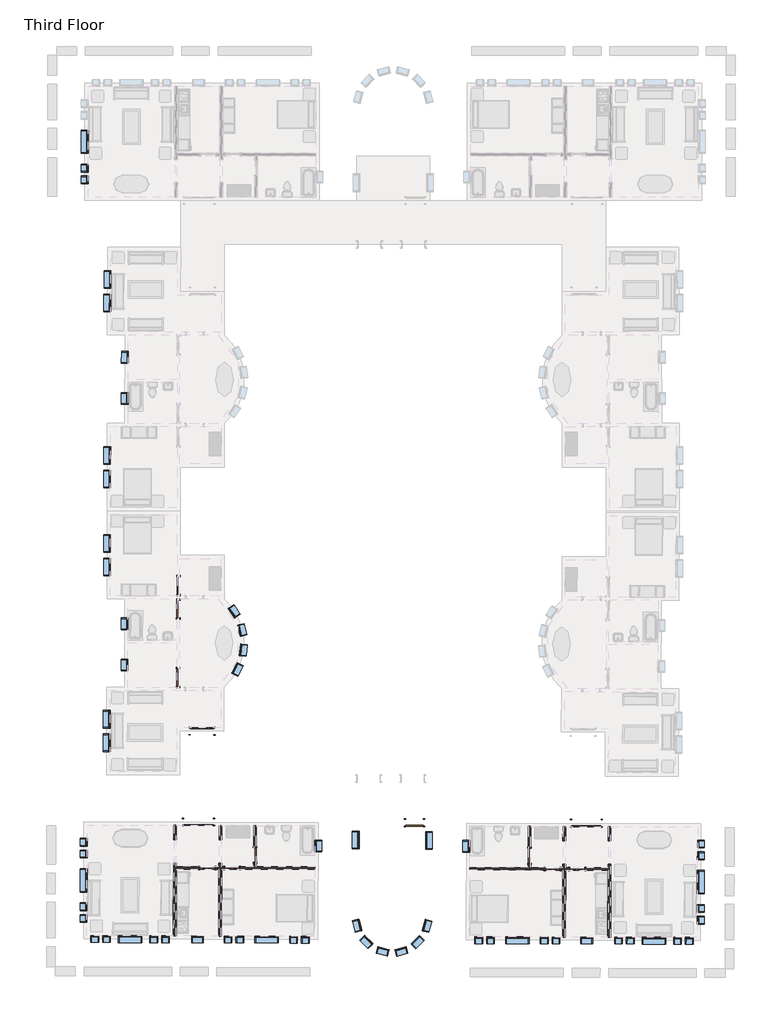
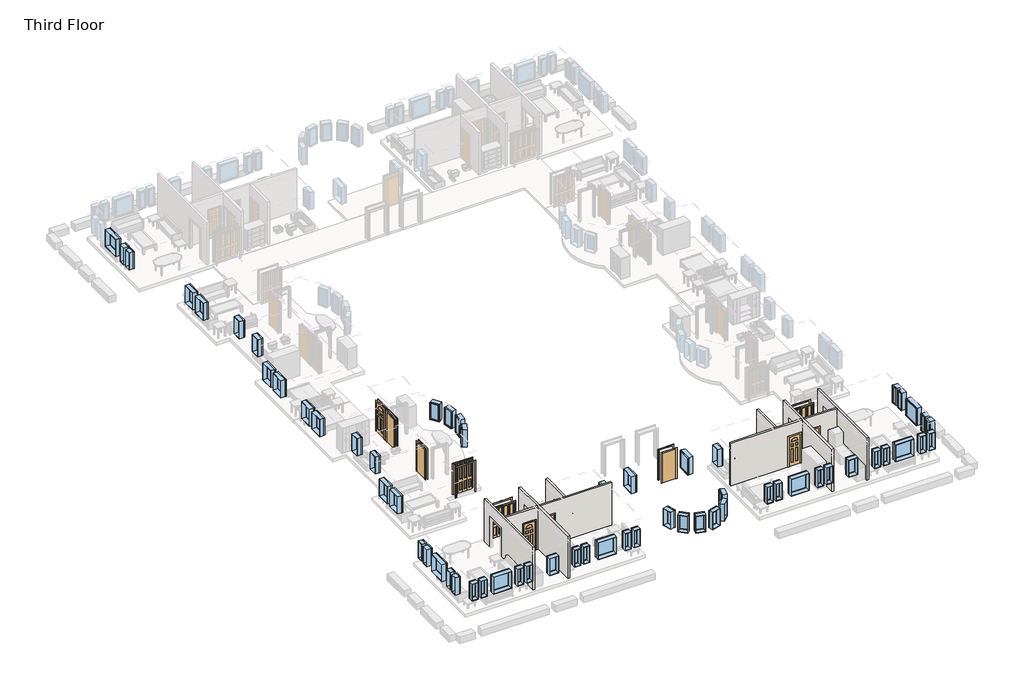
# One storey, part 1 of 5: 61 windows, 13 doors, 8 walls.
"""IFC4 building model written with IfcOpenShell, lengths in millimetres."""

from ifc_helpers import new_model, si_unit, frame, origin, place, context, project, spatial, polyline, outline, extrude, faceted_brep, transform, mapped, element, save
from components import m_bifold_4_panel_1220_x_2134mm_cde6dea2, m_bifold_4_panel_1525_x_2134mm_1ddae71f, m_bifold_4_panel_1525_x_2134mm_ac598c8b, m_single_decorative_2_0762_x_2134mm_0d0af7cb, m_single_decorative_2_0762_x_2134mm_2fe67c8e, m_single_decorative_2_0915_x_2134mm_0b11df3f, m_single_flush_0762_x_2134mm_0d89e411, m_single_flush_0762_x_2134mm_a28375c7, m_single_flush_0915_x_2134mm_ab9b6334, m_single_flush_0915_x_2134mm_08e0827a, m_single_flush_0915_x_2134mm_70678a7c, m_fixed_0406_x_1220mm_57fee329, m_fixed_0406_x_1220mm_85c28f40, m_fixed_0610_x_1220mm_2c28ef1d, m_fixed_0610_x_1220mm_1ea27827, m_fixed_0915_x_1220mm_bde29121, m_fixed_0915_x_1220mm_2a2509e7, m_fixed_1220_x_1220mm_e08ff7af, m_fixed_1220_x_1220mm_8f5f8ad3

model = new_model("IFC4")

# Units and contexts
model_context = context("Model", 3, world=origin())
ifc_project = project(units=[si_unit("LENGTHUNIT", "METRE", prefix="MILLI")], contexts=[model_context])

# Site, building, storey
site = spatial("IfcSite", under=ifc_project)
building = spatial("IfcBuilding", under=site)
storey = spatial("IfcBuildingStorey", under=building, Name="Third Floor", Elevation=6096.0)

# Doors
placement = place(None, origin())
m_bifold_4_panel_1220_x_2134mm_shape = m_bifold_4_panel_1220_x_2134mm_cde6dea2(model_context)
element("IfcDoor", 1, ObjectType="M_Bifold-4 Panel : 1220 x 2134mm", at=placement, inside=storey, context=model_context, shape_type="MappedRepresentation", body=[
    mapped(m_bifold_4_panel_1220_x_2134mm_shape, transform((-28896.4341492, -31100.6581424, 6096.0), x_axis=(-0.9999989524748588, 0.0014474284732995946, 0.0), y_axis=(-0.0014474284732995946, -0.9999989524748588, 0.0), z_axis=(0.0, 0.0, 1.0))),
])
m_bifold_4_panel_1525_x_2134mm_shape = m_bifold_4_panel_1525_x_2134mm_1ddae71f(model_context)
element("IfcDoor", 2, ObjectType="M_Bifold-4 Panel : 1525 x 2134mm", at=placement, inside=storey, context=model_context, shape_type="MappedRepresentation", body=[
    mapped(m_bifold_4_panel_1525_x_2134mm_shape, transform((-29084.8596063, -35825.933405, 6096.0), x_axis=(-0.9999958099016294, 0.0028948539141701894, 0.0), y_axis=(-0.0028948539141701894, -0.9999958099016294, 0.0), z_axis=(0.0, 0.0, 1.0))),
])
m_bifold_4_panel_1525_x_2134mm_2_shape = m_bifold_4_panel_1525_x_2134mm_ac598c8b(model_context)
element("IfcDoor", 3, ObjectType="M_Bifold-4 Panel : 1525 x 2134mm", at=placement, inside=storey, context=model_context, shape_type="MappedRepresentation", body=[
    mapped(m_bifold_4_panel_1525_x_2134mm_2_shape, transform((-8922.9440871, -35884.2994497, 6096.0), x_axis=(0.9999958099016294, -0.0028948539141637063, 0.0), y_axis=(0.0028948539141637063, 0.9999958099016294, 0.0), z_axis=(0.0, 0.0, 1.0))),
])
m_single_decorative_2_0762_x_2134mm_shape = m_single_decorative_2_0762_x_2134mm_0d0af7cb(model_context)
element("IfcDoor", 4, ObjectType="M_Single-Decorative 2 : 0762 x 2134mm", at=placement, inside=storey, context=model_context, shape_type="MappedRepresentation", body=[
    mapped(m_single_decorative_2_0762_x_2134mm_shape, transform((-10682.8170859, -38255.9648119, 6096.0), x_axis=(0.9999958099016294, -0.002894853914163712, 0.0), y_axis=(0.002894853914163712, 0.9999958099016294, 0.0), z_axis=(0.0, 0.0, 1.0))),
])
element("IfcDoor", 5, ObjectType="M_Single-Decorative 2 : 0762 x 2134mm", at=placement, inside=storey, context=model_context, shape_type="MappedRepresentation", body=[
    mapped(m_single_decorative_2_0762_x_2134mm_shape, transform((-28625.491904, -38204.0231719, 6096.0), x_axis=(0.9999958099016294, -0.0028948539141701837, 0.0), y_axis=(0.0028948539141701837, 0.9999958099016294, 0.0), z_axis=(0.0, 0.0, 1.0))),
])
m_single_decorative_2_0762_x_2134mm_2_shape = m_single_decorative_2_0762_x_2134mm_2fe67c8e(model_context)
element("IfcDoor", 6, ObjectType="M_Single-Decorative 2 : 0762 x 2134mm", at=placement, inside=storey, context=model_context, shape_type="MappedRepresentation", body=[
    mapped(m_single_decorative_2_0762_x_2134mm_2_shape, transform((-9396.0724775, -38259.6897652, 6096.0), x_axis=(-0.9999958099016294, 0.002894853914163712, 0.0), y_axis=(-0.002894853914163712, -0.9999958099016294, 0.0), z_axis=(0.0, 0.0, 1.0))),
])
element("IfcDoor", 7, ObjectType="M_Single-Decorative 2 : 0762 x 2134mm", at=placement, inside=storey, context=model_context, shape_type="MappedRepresentation", body=[
    mapped(m_single_decorative_2_0762_x_2134mm_2_shape, transform((-27338.7472956, -38207.7481251, 6096.0), x_axis=(-0.9999958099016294, 0.0028948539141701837, 0.0), y_axis=(-0.0028948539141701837, -0.9999958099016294, 0.0), z_axis=(0.0, 0.0, 1.0))),
])
m_single_decorative_2_0915_x_2134mm_shape = m_single_decorative_2_0915_x_2134mm_0b11df3f(model_context)
element("IfcDoor", 8, ObjectType="M_Single-Decorative 2 : 0915 x 2134mm", at=placement, inside=storey, context=model_context, shape_type="MappedRepresentation", body=[
    mapped(m_single_decorative_2_0915_x_2134mm_shape, transform((-30128.4841363, -23534.6169126, 6096.0), x_axis=(-0.0014474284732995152, -0.9999989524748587, 0.0), y_axis=(0.9999989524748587, -0.0014474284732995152, 0.0), z_axis=(0.0, 0.0, 1.0))),
])
m_single_flush_0762_x_2134mm_shape = m_single_flush_0762_x_2134mm_0d89e411(model_context)
element("IfcDoor", 9, ObjectType="M_Single-Flush : 0762 x 2134mm", at=placement, inside=storey, context=model_context, shape_type="MappedRepresentation", body=[
    mapped(m_single_flush_0762_x_2134mm_shape, transform((-26146.2902967, -37533.4472886, 6096.0), x_axis=(-0.0028948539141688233, -0.9999958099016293, 0.0), y_axis=(0.9999958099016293, -0.0028948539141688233, 0.0), z_axis=(0.0, 0.0, 1.0))),
])
m_single_flush_0762_x_2134mm_2_shape = m_single_flush_0762_x_2134mm_a28375c7(model_context)
element("IfcDoor", 10, ObjectType="M_Single-Flush : 0762 x 2134mm", at=placement, inside=storey, context=model_context, shape_type="MappedRepresentation", body=[
    mapped(m_single_flush_0762_x_2134mm_2_shape, transform((-11871.3501103, -37574.7713282, 6096.0), x_axis=(-0.002894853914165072, -0.9999958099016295, 0.0), y_axis=(0.9999958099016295, -0.002894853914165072, 0.0), z_axis=(0.0, 0.0, 1.0))),
])
m_single_flush_0915_x_2134mm_shape = m_single_flush_0915_x_2134mm_ab9b6334(model_context)
element("IfcDoor", 11, ObjectType="M_Single-Flush : 0915 x 2134mm", at=placement, inside=storey, context=model_context, shape_type="MappedRepresentation", body=[
    mapped(m_single_flush_0915_x_2134mm_shape, transform((-30135.3858371, -28302.8619177, 6096.0), x_axis=(-0.0014474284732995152, -0.9999989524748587, 0.0), y_axis=(0.9999989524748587, -0.0014474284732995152, 0.0), z_axis=(0.0, 0.0, 1.0))),
])
m_single_flush_0915_x_2134mm_2_shape = m_single_flush_0915_x_2134mm_08e0827a(model_context)
element("IfcDoor", 12, ObjectType="M_Single-Flush : 0915 x 2134mm", at=placement, inside=storey, context=model_context, shape_type="MappedRepresentation", body=[
    mapped(m_single_flush_0915_x_2134mm_2_shape, transform((-30130.249999, -24754.6156346, 6096.0), x_axis=(0.0014474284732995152, 0.9999989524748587, 0.0), y_axis=(-0.9999989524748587, 0.0014474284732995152, 0.0), z_axis=(0.0, 0.0, 1.0))),
])
m_single_flush_0915_x_2134mm_3_shape = m_single_flush_0915_x_2134mm_70678a7c(model_context)
element("IfcDoor", 13, ObjectType="M_Single-Flush : 0915 x 2134mm", at=placement, inside=storey, context=model_context, shape_type="MappedRepresentation", body=[
    mapped(m_single_flush_0915_x_2134mm_3_shape, transform((-17860.906636, -35858.4252454, 6096.0), x_axis=(0.9999958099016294, -0.0028948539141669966, 0.0), y_axis=(0.0028948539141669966, 0.9999958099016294, 0.0), z_axis=(0.0, 0.0, 1.0))),
])

# Walls
element("IfcWall", 14, ObjectType="Interior - 135mm Partition (2-hr)", at=placement, inside=storey, context=model_context, shape_type="Brep", body=[
    faceted_brep([(-7661.5898742, -41808.9757108, 6096.0), (-7650.6270624, -38021.9915787, 6096.0), (-7650.6270624, -38021.9915787, 8230.0), (-7647.0953406, -36801.9966906, 8230.0), (-7647.0953406, -36801.9966906, 6096.0), (-7644.9560436, -36062.9997871, 6096.0), (-7644.9560436, -36062.9997871, 9144.0), (-7661.5898742, -41808.9757108, 9144.0), (-7786.1264946, -38021.599326, 8230.0), (-7786.1264946, -38021.599326, 6096.0), (-7786.6330941, -38196.5985928, 6096.0), (-7787.0253468, -38332.098025, 6096.0), (-7797.0893064, -41808.5834581, 6096.0), (-7797.0893064, -41808.5834581, 9144.0), (-7787.0253468, -38332.098025, 9144.0), (-7786.6330941, -38196.5985928, 9144.0), (-7780.4554758, -36062.6075344, 9144.0), (-7780.4554758, -36062.6075344, 6096.0), (-7782.5947729, -36801.6044379, 6096.0), (-7782.5947729, -36801.6044379, 8230.0)], [[[0, 1, 2, 3, 4, 5, 6, 7]], [[8, 9, 10, 11, 12, 13, 14, 15, 16, 17, 18, 19]], [[18, 17, 5, 4]], [[12, 11, 10, 9, 1, 0]], [[7, 6, 16, 15, 14, 13]], [[4, 3, 19, 18]], [[2, 1, 9, 8]], [[3, 2, 8, 19]], [[6, 5, 17, 16]], [[0, 7, 13, 12]]]),
])
element("IfcWall", 15, ObjectType="Interior - 135mm Partition (2-hr)", at=placement, inside=storey, context=model_context, shape_type="Brep", body=[
    faceted_brep([(-10000.8354782, -36795.1829282, 8230.0), (-10000.8354782, -36795.1829282, 6096.0), (-9998.6961811, -36056.1860247, 6096.0), (-9998.6961811, -36056.1860247, 9144.0), (-10004.8737994, -38190.1770831, 9144.0), (-10005.2660521, -38325.6765153, 9144.0), (-10015.3300117, -41802.1619484, 9144.0), (-10015.3300117, -41802.1619484, 6096.0), (-10005.2660521, -38325.6765153, 6096.0), (-10004.8737994, -38190.1770831, 6096.0), (-10004.3671999, -38015.1778163, 6096.0), (-10004.3671999, -38015.1778163, 8230.0), (-10134.1956134, -36055.793772, 6096.0), (-10136.3349104, -36794.7906755, 6096.0), (-10136.3349104, -36794.7906755, 8230.0), (-10139.8666322, -38014.7855636, 8230.0), (-10139.8666322, -38014.7855636, 6096.0), (-10140.3732316, -38189.7848304, 6096.0), (-10140.7654843, -38325.2842626, 6096.0), (-10150.829444, -41801.7696957, 6096.0), (-10150.829444, -41801.7696957, 9144.0), (-10140.7654843, -38325.2842626, 9144.0), (-10140.3732316, -38189.7848304, 9144.0), (-10134.1956134, -36055.793772, 9144.0)], [[[0, 1, 2, 3, 4, 5, 6, 7, 8, 9, 10, 11]], [[12, 13, 14, 15, 16, 17, 18, 19, 20, 21, 22, 23]], [[2, 1, 13, 12]], [[10, 9, 8, 7, 19, 18, 17, 16]], [[6, 5, 4, 3, 23, 22, 21, 20]], [[16, 15, 11, 10]], [[14, 13, 1, 0]], [[15, 14, 0, 11]], [[3, 2, 12, 23]], [[7, 6, 20, 19]]]),
])
element("IfcWall", 16, ObjectType="Interior - 135mm Partition (2-hr)", at=placement, inside=storey, context=model_context, shape_type="Brep", body=[
    faceted_brep([(-9777.2670074, -38326.336542, 6096.0), (-9777.2670074, -38326.336542, 8230.0), (-9015.2702003, -38328.5424207, 8230.0), (-9015.2702003, -38328.5424207, 6096.0), (-7787.0253468, -38332.098025, 6096.0), (-7787.0253468, -38332.098025, 9144.0), (-10005.2660521, -38325.6765153, 9144.0), (-10005.2660521, -38325.6765153, 6096.0), (-9776.8747547, -38190.8371097, 8230.0), (-9776.8747547, -38190.8371097, 6096.0), (-10004.8737994, -38190.1770831, 6096.0), (-10004.8737994, -38190.1770831, 9144.0), (-7786.6330941, -38196.5985928, 9144.0), (-7786.6330941, -38196.5985928, 6096.0), (-9014.8779476, -38193.0429884, 6096.0), (-9014.8779476, -38193.0429884, 8230.0)], [[[0, 1, 2, 3, 4, 5, 6, 7]], [[8, 9, 10, 11, 12, 13, 14, 15]], [[9, 0, 7, 10]], [[3, 14, 13, 4]], [[5, 12, 11, 6]], [[1, 0, 9, 8]], [[2, 1, 8, 15]], [[3, 2, 15, 14]], [[5, 4, 13, 12]], [[7, 6, 11, 10]]]),
    faceted_brep([(-10302.0148087, -38324.8174674, 8230.0), (-10302.0148087, -38324.8174674, 6096.0), (-10140.7654843, -38325.2842626, 6096.0), (-10140.7654843, -38325.2842626, 9144.0), (-14989.2451686, -38311.2485634, 9144.0), (-14989.2451686, -38311.2485634, 6096.0), (-11064.0116158, -38322.6115887, 6096.0), (-11064.0116158, -38322.6115887, 8230.0), (-10301.622556, -38189.3180352, 6096.0), (-10301.622556, -38189.3180352, 8230.0), (-11063.6193631, -38187.1121565, 8230.0), (-11063.6193631, -38187.1121565, 6096.0), (-11805.3662551, -38184.9648986, 6096.0), (-11940.8656874, -38184.5726459, 6096.0), (-14988.8529159, -38175.7491311, 6096.0), (-14988.8529159, -38175.7491311, 9144.0), (-11940.8656874, -38184.5726459, 9144.0), (-11805.3662551, -38184.9648986, 9144.0), (-10140.3732316, -38189.7848304, 9144.0), (-10140.3732316, -38189.7848304, 6096.0)], [[[0, 1, 2, 3, 4, 5, 6, 7]], [[8, 9, 10, 11, 12, 13, 14, 15, 16, 17, 18, 19]], [[1, 8, 19, 2]], [[11, 6, 5, 14, 13, 12]], [[15, 4, 3, 18, 17, 16]], [[9, 8, 1, 0]], [[10, 9, 0, 7]], [[11, 10, 7, 6]], [[5, 4, 15, 14]], [[3, 2, 19, 18]]]),
])
element("IfcWall", 17, ObjectType="Interior - 135mm Partition (2-hr)", at=placement, inside=storey, context=model_context, shape_type="SweptSolid", body=[
    extrude(outline(polyline([(-2309.0, 0.0), (-2080.0, 0.0), (-2080.0, -2134.0), (-1318.0, -2134.0), (-1318.0, 0.0), (-175.0000001, 0.0), (-175.0000001, -3048.0), (-2309.0, -3048.0), (-2309.0, 0.0)])), frame((-11798.6820374, -35875.9745735, 6096.0), z_axis=(-0.9999958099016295, 0.002894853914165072, 0.0), x_axis=(0.002894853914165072, 0.9999958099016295, 0.0)), (0.0, 0.0, 1.0), 135.5),
])
element("IfcWall", 18, ObjectType="Interior - 135mm Partition (2-hr)", at=placement, inside=storey, context=model_context, shape_type="Brep", body=[
    faceted_brep([(-30244.9952471, -41743.5997775, 6096.0), (-30234.9312874, -38267.1143443, 6096.0), (-30234.5390347, -38131.6149121, 6096.0), (-30234.0324353, -37956.6156454, 6096.0), (-30234.0324353, -37956.6156454, 8230.0), (-30230.5007135, -36736.6207573, 8230.0), (-30230.5007135, -36736.6207573, 6096.0), (-30228.3614165, -35997.6238538, 6096.0), (-30228.3614165, -35997.6238538, 9144.0), (-30234.5390347, -38131.6149121, 9144.0), (-30234.9312874, -38267.1143443, 9144.0), (-30244.9952471, -41743.5997775, 9144.0), (-30369.5318675, -37956.2233926, 8230.0), (-30369.5318675, -37956.2233926, 6096.0), (-30380.4946793, -41743.2075247, 6096.0), (-30380.4946793, -41743.2075247, 9144.0), (-30363.8608487, -35997.2316011, 9144.0), (-30363.8608487, -35997.2316011, 6096.0), (-30366.0001458, -36736.2285046, 6096.0), (-30366.0001458, -36736.2285046, 8230.0)], [[[0, 1, 2, 3, 4, 5, 6, 7, 8, 9, 10, 11]], [[12, 13, 14, 15, 16, 17, 18, 19]], [[18, 17, 7, 6]], [[14, 13, 3, 2, 1, 0]], [[11, 10, 9, 8, 16, 15]], [[6, 5, 19, 18]], [[4, 3, 13, 12]], [[5, 4, 12, 19]], [[0, 11, 15, 14]], [[8, 7, 17, 16]]]),
])
element("IfcWall", 19, ObjectType="Interior - 135mm Partition (2-hr)", at=placement, inside=storey, context=model_context, shape_type="Brep", body=[
    faceted_brep([(-27876.760576, -36743.4345197, 8230.0), (-27876.760576, -36743.4345197, 6096.0), (-27874.6212789, -36004.4376162, 6096.0), (-27874.6212789, -36004.4376162, 9144.0), (-27880.7988972, -38138.4286745, 9144.0), (-27881.1911499, -38273.9281067, 9144.0), (-27891.2551095, -41750.4135399, 9144.0), (-27891.2551095, -41750.4135399, 6096.0), (-27881.1911499, -38273.9281067, 6096.0), (-27880.7988972, -38138.4286745, 6096.0), (-27880.2922977, -37963.4294078, 6096.0), (-27880.2922977, -37963.4294078, 8230.0), (-28010.1207112, -36004.0453635, 6096.0), (-28012.2600082, -36743.042267, 6096.0), (-28012.2600082, -36743.042267, 8230.0), (-28015.79173, -37963.037155, 8230.0), (-28015.79173, -37963.037155, 6096.0), (-28016.2983294, -38138.0364218, 6096.0), (-28016.6905821, -38273.535854, 6096.0), (-28026.7545418, -41750.0212871, 6096.0), (-28026.7545418, -41750.0212871, 9144.0), (-28016.6905821, -38273.535854, 9144.0), (-28016.2983294, -38138.0364218, 9144.0), (-28010.1207112, -36004.0453635, 9144.0)], [[[0, 1, 2, 3, 4, 5, 6, 7, 8, 9, 10, 11]], [[12, 13, 14, 15, 16, 17, 18, 19, 20, 21, 22, 23]], [[2, 1, 13, 12]], [[10, 9, 8, 7, 19, 18, 17, 16]], [[6, 5, 4, 3, 23, 22, 21, 20]], [[16, 15, 11, 10]], [[14, 13, 1, 0]], [[15, 14, 0, 11]], [[7, 6, 20, 19]], [[3, 2, 12, 23]]]),
])
element("IfcWall", 20, ObjectType="Interior - 135mm Partition (2-hr)", at=placement, inside=storey, context=model_context, shape_type="Brep", body=[
    faceted_brep([(-30234.5390347, -38131.6149121, 6096.0), (-30234.5390347, -38131.6149121, 9144.0), (-28016.2983294, -38138.0364218, 9144.0), (-28016.2983294, -38138.0364218, 6096.0), (-28244.2973741, -38137.3763951, 6096.0), (-28244.2973741, -38137.3763951, 8230.0), (-29006.2941812, -38135.1705164, 8230.0), (-29006.2941812, -38135.1705164, 6096.0), (-30234.9312874, -38267.1143443, 9144.0), (-30234.9312874, -38267.1143443, 6096.0), (-29006.6864339, -38270.6699486, 6096.0), (-29006.6864339, -38270.6699486, 8230.0), (-28244.6896268, -38272.8758273, 8230.0), (-28244.6896268, -38272.8758273, 6096.0), (-28016.6905821, -38273.535854, 6096.0), (-28016.6905821, -38273.535854, 9144.0)], [[[0, 1, 2, 3, 4, 5, 6, 7]], [[8, 9, 10, 11, 12, 13, 14, 15]], [[9, 0, 7, 10]], [[13, 4, 3, 14]], [[1, 8, 15, 2]], [[1, 0, 9, 8]], [[3, 2, 15, 14]], [[5, 4, 13, 12]], [[6, 5, 12, 11]], [[7, 6, 11, 10]]]),
    faceted_brep([(-27719.5495728, -38138.8954697, 8230.0), (-27719.5495728, -38138.8954697, 6096.0), (-27880.7988972, -38138.4286745, 6096.0), (-27880.7988972, -38138.4286745, 9144.0), (-26215.8058737, -38143.2486063, 9144.0), (-26080.3064415, -38143.640859, 9144.0), (-23032.3192129, -38152.4643737, 9144.0), (-23032.3192129, -38152.4643737, 6096.0), (-26080.3064415, -38143.640859, 6096.0), (-26215.8058737, -38143.2486063, 6096.0), (-26957.5527657, -38141.1013484, 6096.0), (-26957.5527657, -38141.1013484, 8230.0), (-27719.9418255, -38274.3949019, 6096.0), (-27719.9418255, -38274.3949019, 8230.0), (-26957.9450184, -38276.6007806, 8230.0), (-26957.9450184, -38276.6007806, 6096.0), (-23032.7114656, -38287.9638059, 6096.0), (-23032.7114656, -38287.9638059, 9144.0), (-27881.1911499, -38273.9281067, 9144.0), (-27881.1911499, -38273.9281067, 6096.0)], [[[0, 1, 2, 3, 4, 5, 6, 7, 8, 9, 10, 11]], [[12, 13, 14, 15, 16, 17, 18, 19]], [[1, 12, 19, 2]], [[15, 10, 9, 8, 7, 16]], [[17, 6, 5, 4, 3, 18]], [[3, 2, 19, 18]], [[13, 12, 1, 0]], [[14, 13, 0, 11]], [[15, 14, 11, 10]], [[7, 6, 17, 16]]]),
])
element("IfcWall", 21, ObjectType="Interior - 135mm Partition (2-hr)", at=placement, inside=storey, context=model_context, shape_type="SweptSolid", body=[
    extrude(outline(polyline([(-2309.0, 0.0), (-2080.0, 0.0), (-2080.0, -2134.0), (-1317.9999999, -2134.0), (-1317.9999999, 0.0), (-175.0, 0.0), (-175.0, -3048.0), (-2309.0, -3048.0), (-2309.0, 0.0)])), frame((-26073.6222238, -35834.6505339, 6096.0), z_axis=(-0.9999958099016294, 0.0028948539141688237, 0.0), x_axis=(0.0028948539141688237, 0.9999958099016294, 0.0)), (0.0, 0.0, 1.0), 135.5),
])

# Windows
m_fixed_0406_x_1220mm_shape = m_fixed_0406_x_1220mm_57fee329(model_context)
element("IfcWindow", 22, ObjectType="M_Fixed : 0406 x 1220mm", at=placement, inside=storey, context=model_context, shape_type="MappedRepresentation", body=[
    mapped(m_fixed_0406_x_1220mm_shape, transform((-35008.8416203, -2447.8811614, 6096.0), x_axis=(0.0, -1.0, 0.0), y_axis=(1.0, 0.0, 0.0), z_axis=(0.0, 0.0, 1.0))),
])
element("IfcWindow", 23, ObjectType="M_Fixed : 0406 x 1220mm", at=placement, inside=storey, context=model_context, shape_type="MappedRepresentation", body=[
    mapped(m_fixed_0406_x_1220mm_shape, transform((-35008.8416203, -1837.8811614, 6096.0), x_axis=(0.0, -1.0, 0.0), y_axis=(1.0, 0.0, 0.0), z_axis=(0.0, 0.0, 1.0))),
])
element("IfcWindow", 24, ObjectType="M_Fixed : 0406 x 1220mm", at=placement, inside=storey, context=model_context, shape_type="MappedRepresentation", body=[
    mapped(m_fixed_0406_x_1220mm_shape, transform((-10500.8722121, -41988.7571565, 6096.0), x_axis=(0.9999958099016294, -0.002894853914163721, 0.0), y_axis=(0.002894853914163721, 0.9999958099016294, 0.0), z_axis=(0.0, 0.0, 1.0))),
])
element("IfcWindow", 25, ObjectType="M_Fixed : 0406 x 1220mm", at=placement, inside=storey, context=model_context, shape_type="MappedRepresentation", body=[
    mapped(m_fixed_0406_x_1220mm_shape, transform((-11110.8696561, -41986.9912956, 6096.0), x_axis=(0.9999958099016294, -0.002894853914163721, 0.0), y_axis=(0.002894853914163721, 0.9999958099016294, 0.0), z_axis=(0.0, 0.0, 1.0))),
])
element("IfcWindow", 26, ObjectType="M_Fixed : 0406 x 1220mm", at=placement, inside=storey, context=model_context, shape_type="MappedRepresentation", body=[
    mapped(m_fixed_0406_x_1220mm_shape, transform((-3572.1512442, -42008.8148756, 6096.0), x_axis=(0.9999958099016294, -0.002894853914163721, 0.0), y_axis=(0.002894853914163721, 0.9999958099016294, 0.0), z_axis=(0.0, 0.0, 1.0))),
])
element("IfcWindow", 27, ObjectType="M_Fixed : 0406 x 1220mm", at=placement, inside=storey, context=model_context, shape_type="MappedRepresentation", body=[
    mapped(m_fixed_0406_x_1220mm_shape, transform((-4182.1486882, -42007.0490147, 6096.0), x_axis=(0.9999958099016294, -0.002894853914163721, 0.0), y_axis=(0.002894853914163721, 0.9999958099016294, 0.0), z_axis=(0.0, 0.0, 1.0))),
])
element("IfcWindow", 28, ObjectType="M_Fixed : 0406 x 1220mm", at=placement, inside=storey, context=model_context, shape_type="MappedRepresentation", body=[
    mapped(m_fixed_0406_x_1220mm_shape, transform((-2955.3079143, -36968.5794278, 6096.0), x_axis=(0.0028948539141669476, 0.9999958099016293, 0.0), y_axis=(-0.9999958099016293, 0.0028948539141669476, 0.0), z_axis=(0.0, 0.0, 1.0))),
])
element("IfcWindow", 29, ObjectType="M_Fixed : 0406 x 1220mm", at=placement, inside=storey, context=model_context, shape_type="MappedRepresentation", body=[
    mapped(m_fixed_0406_x_1220mm_shape, transform((-2957.0737751, -37578.5768719, 6096.0), x_axis=(0.0028948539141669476, 0.9999958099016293, 0.0), y_axis=(-0.9999958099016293, 0.0028948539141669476, 0.0), z_axis=(0.0, 0.0, 1.0))),
])
element("IfcWindow", 30, ObjectType="M_Fixed : 0406 x 1220mm", at=placement, inside=storey, context=model_context, shape_type="MappedRepresentation", body=[
    mapped(m_fixed_0406_x_1220mm_shape, transform((-23528.3176256, -41951.0444472, 6096.0), x_axis=(0.9999958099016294, -0.0028948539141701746, 0.0), y_axis=(0.0028948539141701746, 0.9999958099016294, 0.0), z_axis=(0.0, 0.0, 1.0))),
])
element("IfcWindow", 31, ObjectType="M_Fixed : 0406 x 1220mm", at=placement, inside=storey, context=model_context, shape_type="MappedRepresentation", body=[
    mapped(m_fixed_0406_x_1220mm_shape, transform((-24138.3150696, -41949.2785863, 6096.0), x_axis=(0.9999958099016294, -0.0028948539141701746, 0.0), y_axis=(0.0028948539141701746, 0.9999958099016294, 0.0), z_axis=(0.0, 0.0, 1.0))),
])
element("IfcWindow", 32, ObjectType="M_Fixed : 0406 x 1220mm", at=placement, inside=storey, context=model_context, shape_type="MappedRepresentation", body=[
    mapped(m_fixed_0406_x_1220mm_shape, transform((-30795.2871761, -41930.0075438, 6096.0), x_axis=(0.9999958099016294, -0.0028948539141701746, 0.0), y_axis=(0.0028948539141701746, 0.9999958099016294, 0.0), z_axis=(0.0, 0.0, 1.0))),
])
element("IfcWindow", 33, ObjectType="M_Fixed : 0406 x 1220mm", at=placement, inside=storey, context=model_context, shape_type="MappedRepresentation", body=[
    mapped(m_fixed_0406_x_1220mm_shape, transform((-31405.2846201, -41928.2416829, 6096.0), x_axis=(0.9999958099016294, -0.0028948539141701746, 0.0), y_axis=(0.0028948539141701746, 0.9999958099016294, 0.0), z_axis=(0.0, 0.0, 1.0))),
])
element("IfcWindow", 34, ObjectType="M_Fixed : 0406 x 1220mm", at=placement, inside=storey, context=model_context, shape_type="MappedRepresentation", body=[
    mapped(m_fixed_0406_x_1220mm_shape, transform((-35070.1428086, -40837.627884, 6096.0), x_axis=(-0.002894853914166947, -0.9999958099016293, 0.0), y_axis=(0.9999958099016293, -0.002894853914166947, 0.0), z_axis=(0.0, 0.0, 1.0))),
])
element("IfcWindow", 35, ObjectType="M_Fixed : 0406 x 1220mm", at=placement, inside=storey, context=model_context, shape_type="MappedRepresentation", body=[
    mapped(m_fixed_0406_x_1220mm_shape, transform((-35068.3769478, -40227.63044, 6096.0), x_axis=(-0.002894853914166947, -0.9999958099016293, 0.0), y_axis=(0.9999958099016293, -0.002894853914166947, 0.0), z_axis=(0.0, 0.0, 1.0))),
])
m_fixed_0406_x_1220mm_2_shape = m_fixed_0406_x_1220mm_85c28f40(model_context)
element("IfcWindow", 36, ObjectType="M_Fixed : 0406 x 1220mm", at=placement, inside=storey, context=model_context, shape_type="MappedRepresentation", body=[
    mapped(m_fixed_0406_x_1220mm_2_shape, transform((-14514.855393, -41977.1372129, 6096.0), x_axis=(-0.9999958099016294, 0.002894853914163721, 0.0), y_axis=(-0.002894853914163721, -0.9999958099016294, 0.0), z_axis=(0.0, 0.0, 1.0))),
])
element("IfcWindow", 37, ObjectType="M_Fixed : 0406 x 1220mm", at=placement, inside=storey, context=model_context, shape_type="MappedRepresentation", body=[
    mapped(m_fixed_0406_x_1220mm_2_shape, transform((-13904.857949, -41978.9030738, 6096.0), x_axis=(-0.9999958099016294, 0.002894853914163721, 0.0), y_axis=(-0.002894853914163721, -0.9999958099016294, 0.0), z_axis=(0.0, 0.0, 1.0))),
])
element("IfcWindow", 38, ObjectType="M_Fixed : 0406 x 1220mm", at=placement, inside=storey, context=model_context, shape_type="MappedRepresentation", body=[
    mapped(m_fixed_0406_x_1220mm_2_shape, transform((-7247.8858424, -41998.1741163, 6096.0), x_axis=(-0.9999958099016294, 0.002894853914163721, 0.0), y_axis=(-0.002894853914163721, -0.9999958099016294, 0.0), z_axis=(0.0, 0.0, 1.0))),
])
element("IfcWindow", 39, ObjectType="M_Fixed : 0406 x 1220mm", at=placement, inside=storey, context=model_context, shape_type="MappedRepresentation", body=[
    mapped(m_fixed_0406_x_1220mm_2_shape, transform((-6637.8883984, -41999.9399772, 6096.0), x_axis=(-0.9999958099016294, 0.002894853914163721, 0.0), y_axis=(-0.002894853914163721, -0.9999958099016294, 0.0), z_axis=(0.0, 0.0, 1.0))),
])
element("IfcWindow", 40, ObjectType="M_Fixed : 0406 x 1220mm", at=placement, inside=storey, context=model_context, shape_type="MappedRepresentation", body=[
    mapped(m_fixed_0406_x_1220mm_2_shape, transform((-2966.7773255, -40930.5628267, 6096.0), x_axis=(-0.0028948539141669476, -0.9999958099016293, 0.0), y_axis=(0.9999958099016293, -0.0028948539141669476, 0.0), z_axis=(0.0, 0.0, 1.0))),
])
element("IfcWindow", 41, ObjectType="M_Fixed : 0406 x 1220mm", at=placement, inside=storey, context=model_context, shape_type="MappedRepresentation", body=[
    mapped(m_fixed_0406_x_1220mm_2_shape, transform((-2965.0114646, -40320.5653826, 6096.0), x_axis=(-0.0028948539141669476, -0.9999958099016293, 0.0), y_axis=(0.9999958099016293, -0.0028948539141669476, 0.0), z_axis=(0.0, 0.0, 1.0))),
])
element("IfcWindow", 42, ObjectType="M_Fixed : 0406 x 1220mm", at=placement, inside=storey, context=model_context, shape_type="MappedRepresentation", body=[
    mapped(m_fixed_0406_x_1220mm_2_shape, transform((-27542.3008065, -41939.4245036, 6096.0), x_axis=(-0.9999958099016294, 0.0028948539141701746, 0.0), y_axis=(-0.0028948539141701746, -0.9999958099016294, 0.0), z_axis=(0.0, 0.0, 1.0))),
])
element("IfcWindow", 43, ObjectType="M_Fixed : 0406 x 1220mm", at=placement, inside=storey, context=model_context, shape_type="MappedRepresentation", body=[
    mapped(m_fixed_0406_x_1220mm_2_shape, transform((-26932.3033625, -41941.1903644, 6096.0), x_axis=(-0.9999958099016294, 0.0028948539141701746, 0.0), y_axis=(-0.0028948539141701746, -0.9999958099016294, 0.0), z_axis=(0.0, 0.0, 1.0))),
])
element("IfcWindow", 44, ObjectType="M_Fixed : 0406 x 1220mm", at=placement, inside=storey, context=model_context, shape_type="MappedRepresentation", body=[
    mapped(m_fixed_0406_x_1220mm_2_shape, transform((-34471.0217744, -41919.3667845, 6096.0), x_axis=(-0.9999958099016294, 0.0028948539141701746, 0.0), y_axis=(-0.0028948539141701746, -0.9999958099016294, 0.0), z_axis=(0.0, 0.0, 1.0))),
])
element("IfcWindow", 45, ObjectType="M_Fixed : 0406 x 1220mm", at=placement, inside=storey, context=model_context, shape_type="MappedRepresentation", body=[
    mapped(m_fixed_0406_x_1220mm_2_shape, transform((-33861.0243303, -41921.1326454, 6096.0), x_axis=(-0.9999958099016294, 0.0028948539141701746, 0.0), y_axis=(-0.0028948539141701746, -0.9999958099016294, 0.0), z_axis=(0.0, 0.0, 1.0))),
])
element("IfcWindow", 46, ObjectType="M_Fixed : 0406 x 1220mm", at=placement, inside=storey, context=model_context, shape_type="MappedRepresentation", body=[
    mapped(m_fixed_0406_x_1220mm_2_shape, transform((-35058.6733974, -36875.6444852, 6096.0), x_axis=(0.002894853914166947, 0.9999958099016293, 0.0), y_axis=(-0.9999958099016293, 0.002894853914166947, 0.0), z_axis=(0.0, 0.0, 1.0))),
])
element("IfcWindow", 47, ObjectType="M_Fixed : 0406 x 1220mm", at=placement, inside=storey, context=model_context, shape_type="MappedRepresentation", body=[
    mapped(m_fixed_0406_x_1220mm_2_shape, transform((-35060.4392583, -37485.6419292, 6096.0), x_axis=(0.002894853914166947, 0.9999958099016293, 0.0), y_axis=(-0.9999958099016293, 0.002894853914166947, 0.0), z_axis=(0.0, 0.0, 1.0))),
])
m_fixed_0610_x_1220mm_shape = m_fixed_0610_x_1220mm_2c28ef1d(model_context)
element("IfcWindow", 48, ObjectType="M_Fixed : 0610 x 1220mm", at=placement, inside=storey, context=model_context, shape_type="MappedRepresentation", body=[
    mapped(m_fixed_0610_x_1220mm_shape, transform((-32923.0053866, -13805.8618518, 6096.0), x_axis=(-0.0014474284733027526, -0.9999989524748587, 0.0), y_axis=(0.9999989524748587, -0.0014474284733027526, 0.0), z_axis=(0.0, 0.0, 1.0))),
])
element("IfcWindow", 49, ObjectType="M_Fixed : 0610 x 1220mm", at=placement, inside=storey, context=model_context, shape_type="MappedRepresentation", body=[
    mapped(m_fixed_0610_x_1220mm_shape, transform((-32919.9171532, -11672.2640868, 6096.0), x_axis=(-0.0014474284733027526, -0.9999989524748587, 0.0), y_axis=(0.9999989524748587, -0.0014474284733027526, 0.0), z_axis=(0.0, 0.0, 1.0))),
])
element("IfcWindow", 50, ObjectType="M_Fixed : 0610 x 1220mm", at=placement, inside=storey, context=model_context, shape_type="MappedRepresentation", body=[
    mapped(m_fixed_0610_x_1220mm_shape, transform((-17192.9734341, -41226.7827416, 6096.0), x_axis=(0.2616141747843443, 0.9651725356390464, 0.0), y_axis=(-0.9651725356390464, 0.2616141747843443, 0.0), z_axis=(0.0, 0.0, 1.0))),
])
element("IfcWindow", 51, ObjectType="M_Fixed : 0610 x 1220mm", at=placement, inside=storey, context=model_context, shape_type="MappedRepresentation", body=[
    mapped(m_fixed_0610_x_1220mm_shape, transform((-18533.9080335, -42559.9760987, 6096.0), x_axis=(0.9666710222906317, 0.2560217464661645, 0.0), y_axis=(-0.2560217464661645, 0.9666710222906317, 0.0), z_axis=(0.0, 0.0, 1.0))),
])
element("IfcWindow", 52, ObjectType="M_Fixed : 0610 x 1220mm", at=placement, inside=storey, context=model_context, shape_type="MappedRepresentation", body=[
    mapped(m_fixed_0610_x_1220mm_shape, transform((-17684.8266921, -42073.0305917, 6096.0), x_axis=(0.709150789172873, 0.7050568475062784, 0.0), y_axis=(-0.7050568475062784, 0.709150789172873, 0.0), z_axis=(0.0, 0.0, 1.0))),
])
element("IfcWindow", 53, ObjectType="M_Fixed : 0610 x 1220mm", at=placement, inside=storey, context=model_context, shape_type="MappedRepresentation", body=[
    mapped(m_fixed_0610_x_1220mm_shape, transform((-29136.4441269, -41934.8096722, 6096.0), x_axis=(0.9999958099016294, -0.0028948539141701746, 0.0), y_axis=(0.0028948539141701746, 0.9999958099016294, 0.0), z_axis=(0.0, 0.0, 1.0))),
])
element("IfcWindow", 54, ObjectType="M_Fixed : 0610 x 1220mm", at=placement, inside=storey, context=model_context, shape_type="MappedRepresentation", body=[
    mapped(m_fixed_0610_x_1220mm_shape, transform((-22841.1675047, -37064.0131692, 6096.0), x_axis=(0.0028948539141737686, 0.9999958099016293, 0.0), y_axis=(-0.9999958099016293, 0.0028948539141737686, 0.0), z_axis=(0.0, 0.0, 1.0))),
])
element("IfcWindow", 55, ObjectType="M_Fixed : 0610 x 1220mm", at=placement, inside=storey, context=model_context, shape_type="MappedRepresentation", body=[
    mapped(m_fixed_0610_x_1220mm_shape, transform((-27047.2502691, -27908.2496385, 6096.0), x_axis=(0.4532525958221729, 0.8913821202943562, 0.0), y_axis=(-0.8913821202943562, 0.4532525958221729, 0.0), z_axis=(0.0, 0.0, 1.0))),
])
element("IfcWindow", 56, ObjectType="M_Fixed : 0610 x 1220mm", at=placement, inside=storey, context=model_context, shape_type="MappedRepresentation", body=[
    mapped(m_fixed_0610_x_1220mm_shape, transform((-26738.7440135, -26896.1747529, 6096.0), x_axis=(0.12104747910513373, 0.9926467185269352, 0.0), y_axis=(-0.9926467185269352, 0.12104747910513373, 0.0), z_axis=(0.0, 0.0, 1.0))),
])
m_fixed_0610_x_1220mm_2_shape = m_fixed_0610_x_1220mm_1ea27827(model_context)
element("IfcWindow", 57, ObjectType="M_Fixed : 0610 x 1220mm", at=placement, inside=storey, context=model_context, shape_type="MappedRepresentation", body=[
    mapped(m_fixed_0610_x_1220mm_2_shape, transform((-8906.7288917, -41993.3719879, 6096.0), x_axis=(-0.9999958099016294, 0.002894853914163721, 0.0), y_axis=(-0.002894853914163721, -0.9999958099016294, 0.0), z_axis=(0.0, 0.0, 1.0))),
])
element("IfcWindow", 58, ObjectType="M_Fixed : 0610 x 1220mm", at=placement, inside=storey, context=model_context, shape_type="MappedRepresentation", body=[
    mapped(m_fixed_0610_x_1220mm_2_shape, transform((-15173.6996323, -37086.2094616, 6096.0), x_axis=(0.0028948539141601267, 0.9999958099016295, 0.0), y_axis=(-0.9999958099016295, 0.0028948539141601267, 0.0), z_axis=(0.0, 0.0, 1.0))),
])
element("IfcWindow", 59, ObjectType="M_Fixed : 0610 x 1220mm", at=placement, inside=storey, context=model_context, shape_type="MappedRepresentation", body=[
    mapped(m_fixed_0610_x_1220mm_2_shape, transform((-20845.9001557, -41216.208008, 6096.0), x_axis=(-0.25602174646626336, 0.9666710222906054, 0.0), y_axis=(-0.9666710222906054, -0.25602174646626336, 0.0), z_axis=(0.0, 0.0, 1.0))),
])
element("IfcWindow", 60, ObjectType="M_Fixed : 0610 x 1220mm", at=placement, inside=storey, context=model_context, shape_type="MappedRepresentation", body=[
    mapped(m_fixed_0610_x_1220mm_2_shape, transform((-19512.7067986, -42557.1426074, 6096.0), x_axis=(-0.9651725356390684, 0.26161417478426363, 0.0), y_axis=(-0.26161417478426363, -0.9651725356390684, 0.0), z_axis=(0.0, 0.0, 1.0))),
])
element("IfcWindow", 61, ObjectType="M_Fixed : 0610 x 1220mm", at=placement, inside=storey, context=model_context, shape_type="MappedRepresentation", body=[
    mapped(m_fixed_0610_x_1220mm_2_shape, transform((-20358.9546487, -42065.2893494, 6096.0), x_axis=(-0.7050568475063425, 0.7091507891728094, 0.0), y_axis=(-0.7091507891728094, -0.7050568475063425, 0.0), z_axis=(0.0, 0.0, 1.0))),
])
element("IfcWindow", 62, ObjectType="M_Fixed : 0610 x 1220mm", at=placement, inside=storey, context=model_context, shape_type="MappedRepresentation", body=[
    mapped(m_fixed_0610_x_1220mm_2_shape, transform((-32939.9662087, -25523.749577, 6096.0), x_axis=(0.0014474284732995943, 0.9999989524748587, 0.0), y_axis=(-0.9999989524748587, 0.0014474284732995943, 0.0), z_axis=(0.0, 0.0, 1.0))),
])
element("IfcWindow", 63, ObjectType="M_Fixed : 0610 x 1220mm", at=placement, inside=storey, context=model_context, shape_type="MappedRepresentation", body=[
    mapped(m_fixed_0610_x_1220mm_2_shape, transform((-32943.0544421, -27657.347342, 6096.0), x_axis=(0.0014474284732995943, 0.9999989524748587, 0.0), y_axis=(-0.9999989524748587, 0.0014474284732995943, 0.0), z_axis=(0.0, 0.0, 1.0))),
])
element("IfcWindow", 64, ObjectType="M_Fixed : 0610 x 1220mm", at=placement, inside=storey, context=model_context, shape_type="MappedRepresentation", body=[
    mapped(m_fixed_0610_x_1220mm_2_shape, transform((-27209.2126527, -24866.0217566, 6096.0), x_axis=(0.5453332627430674, -0.8382193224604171, 0.0), y_axis=(0.8382193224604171, 0.5453332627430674, 0.0), z_axis=(0.0, 0.0, 1.0))),
])
element("IfcWindow", 65, ObjectType="M_Fixed : 0610 x 1220mm", at=placement, inside=storey, context=model_context, shape_type="MappedRepresentation", body=[
    mapped(m_fixed_0610_x_1220mm_2_shape, transform((-26794.992959, -25839.6200974, 6096.0), x_axis=(0.225757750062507, -0.974183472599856, 0.0), y_axis=(0.974183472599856, 0.225757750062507, 0.0), z_axis=(0.0, 0.0, 1.0))),
])
m_fixed_0915_x_1220mm_shape = m_fixed_0915_x_1220mm_bde29121(model_context)
element("IfcWindow", 66, ObjectType="M_Fixed : 0915 x 1220mm", at=placement, inside=storey, context=model_context, shape_type="MappedRepresentation", body=[
    mapped(m_fixed_0915_x_1220mm_shape, transform((-33843.4583707, -17987.0839419, 6096.0), x_axis=(-0.0014474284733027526, -0.9999989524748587, 0.0), y_axis=(0.9999989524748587, -0.0014474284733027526, 0.0), z_axis=(0.0, 0.0, 1.0))),
])
element("IfcWindow", 67, ObjectType="M_Fixed : 0915 x 1220mm", at=placement, inside=storey, context=model_context, shape_type="MappedRepresentation", body=[
    mapped(m_fixed_0915_x_1220mm_shape, transform((-33841.6936659, -16767.885219, 6096.0), x_axis=(-0.0014474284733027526, -0.9999989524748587, 0.0), y_axis=(0.9999989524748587, -0.0014474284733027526, 0.0), z_axis=(0.0, 0.0, 1.0))),
])
element("IfcWindow", 68, ObjectType="M_Fixed : 0915 x 1220mm", at=placement, inside=storey, context=model_context, shape_type="MappedRepresentation", body=[
    mapped(m_fixed_0915_x_1220mm_shape, transform((-33830.2230847, -8843.0935205, 6096.0), x_axis=(-0.0014474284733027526, -0.9999989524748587, 0.0), y_axis=(0.9999989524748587, -0.0014474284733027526, 0.0), z_axis=(0.0, 0.0, 1.0))),
])
element("IfcWindow", 69, ObjectType="M_Fixed : 0915 x 1220mm", at=placement, inside=storey, context=model_context, shape_type="MappedRepresentation", body=[
    mapped(m_fixed_0915_x_1220mm_shape, transform((-33828.4583799, -7623.8947976, 6096.0), x_axis=(-0.0014474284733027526, -0.9999989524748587, 0.0), y_axis=(0.9999989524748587, -0.0014474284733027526, 0.0), z_axis=(0.0, 0.0, 1.0))),
])
m_fixed_0915_x_1220mm_2_shape = m_fixed_0915_x_1220mm_2a2509e7(model_context)
element("IfcWindow", 70, ObjectType="M_Fixed : 0915 x 1220mm", at=placement, inside=storey, context=model_context, shape_type="MappedRepresentation", body=[
    mapped(m_fixed_0915_x_1220mm_2_shape, transform((-20924.5426014, -36764.5602636, 6096.0), x_axis=(0.002894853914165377, 0.9999958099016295, 0.0), y_axis=(-0.9999958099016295, 0.002894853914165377, 0.0), z_axis=(0.0, 0.0, 1.0))),
])
element("IfcWindow", 71, ObjectType="M_Fixed : 0915 x 1220mm", at=placement, inside=storey, context=model_context, shape_type="MappedRepresentation", body=[
    mapped(m_fixed_0915_x_1220mm_2_shape, transform((-17088.5586747, -36775.6649232, 6096.0), x_axis=(-0.0028948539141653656, -0.9999958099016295, 0.0), y_axis=(0.9999958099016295, -0.0028948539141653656, 0.0), z_axis=(0.0, 0.0, 1.0))),
])
element("IfcWindow", 72, ObjectType="M_Fixed : 0915 x 1220mm", at=placement, inside=storey, context=model_context, shape_type="MappedRepresentation", body=[
    mapped(m_fixed_0915_x_1220mm_2_shape, transform((-33848.3113088, -21339.8804297, 6096.0), x_axis=(0.0014474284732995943, 0.9999989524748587, 0.0), y_axis=(-0.9999989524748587, 0.0014474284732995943, 0.0), z_axis=(0.0, 0.0, 1.0))),
])
element("IfcWindow", 73, ObjectType="M_Fixed : 0915 x 1220mm", at=placement, inside=storey, context=model_context, shape_type="MappedRepresentation", body=[
    mapped(m_fixed_0915_x_1220mm_2_shape, transform((-33850.0760136, -22559.0791526, 6096.0), x_axis=(0.0014474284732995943, 0.9999989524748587, 0.0), y_axis=(-0.9999989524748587, 0.0014474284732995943, 0.0), z_axis=(0.0, 0.0, 1.0))),
])
element("IfcWindow", 74, ObjectType="M_Fixed : 0915 x 1220mm", at=placement, inside=storey, context=model_context, shape_type="MappedRepresentation", body=[
    mapped(m_fixed_0915_x_1220mm_2_shape, transform((-33861.5465948, -30483.8708512, 6096.0), x_axis=(0.0014474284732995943, 0.9999989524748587, 0.0), y_axis=(-0.9999989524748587, 0.0014474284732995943, 0.0), z_axis=(0.0, 0.0, 1.0))),
])
element("IfcWindow", 75, ObjectType="M_Fixed : 0915 x 1220mm", at=placement, inside=storey, context=model_context, shape_type="MappedRepresentation", body=[
    mapped(m_fixed_0915_x_1220mm_2_shape, transform((-33863.3112996, -31703.069574, 6096.0), x_axis=(0.0014474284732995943, 0.9999989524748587, 0.0), y_axis=(-0.9999989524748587, 0.0014474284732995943, 0.0), z_axis=(0.0, 0.0, 1.0))),
])
m_fixed_1220_x_1220mm_shape = m_fixed_1220_x_1220mm_e08ff7af(model_context)
element("IfcWindow", 76, ObjectType="M_Fixed : 1220 x 1220mm", at=placement, inside=storey, context=model_context, shape_type="MappedRepresentation", body=[
    mapped(m_fixed_1220_x_1220mm_shape, transform((-25535.309216, -41945.2344754, 6096.0), x_axis=(0.9999958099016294, -0.0028948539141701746, 0.0), y_axis=(0.0028948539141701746, 0.9999958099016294, 0.0), z_axis=(0.0, 0.0, 1.0))),
])
element("IfcWindow", 77, ObjectType="M_Fixed : 1220 x 1220mm", at=placement, inside=storey, context=model_context, shape_type="MappedRepresentation", body=[
    mapped(m_fixed_1220_x_1220mm_shape, transform((-32633.1544752, -41924.6871641, 6096.0), x_axis=(0.9999958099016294, -0.0028948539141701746, 0.0), y_axis=(0.0028948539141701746, 0.9999958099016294, 0.0), z_axis=(0.0, 0.0, 1.0))),
])
element("IfcWindow", 78, ObjectType="M_Fixed : 1220 x 1220mm", at=placement, inside=storey, context=model_context, shape_type="MappedRepresentation", body=[
    mapped(m_fixed_1220_x_1220mm_shape, transform((-35064.408103, -38856.6361846, 6096.0), x_axis=(-0.002894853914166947, -0.9999958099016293, 0.0), y_axis=(0.9999958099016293, -0.002894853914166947, 0.0), z_axis=(0.0, 0.0, 1.0))),
])
m_fixed_1220_x_1220mm_2_shape = m_fixed_1220_x_1220mm_8f5f8ad3(model_context)
element("IfcWindow", 79, ObjectType="M_Fixed : 1220 x 1220mm", at=placement, inside=storey, context=model_context, shape_type="MappedRepresentation", body=[
    mapped(m_fixed_1220_x_1220mm_2_shape, transform((-35008.8416203, -466.8811614, 6096.0), x_axis=(0.0, 1.0, 0.0), y_axis=(-1.0, 0.0, 0.0), z_axis=(0.0, 0.0, 1.0))),
])
element("IfcWindow", 80, ObjectType="M_Fixed : 1220 x 1220mm", at=placement, inside=storey, context=model_context, shape_type="MappedRepresentation", body=[
    mapped(m_fixed_1220_x_1220mm_2_shape, transform((-12507.8638025, -41982.9471847, 6096.0), x_axis=(-0.9999958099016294, 0.002894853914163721, 0.0), y_axis=(-0.002894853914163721, -0.9999958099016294, 0.0), z_axis=(0.0, 0.0, 1.0))),
])
element("IfcWindow", 81, ObjectType="M_Fixed : 1220 x 1220mm", at=placement, inside=storey, context=model_context, shape_type="MappedRepresentation", body=[
    mapped(m_fixed_1220_x_1220mm_2_shape, transform((-5410.0185433, -42003.494496, 6096.0), x_axis=(-0.9999958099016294, 0.002894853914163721, 0.0), y_axis=(-0.002894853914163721, -0.9999958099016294, 0.0), z_axis=(0.0, 0.0, 1.0))),
])
element("IfcWindow", 82, ObjectType="M_Fixed : 1220 x 1220mm", at=placement, inside=storey, context=model_context, shape_type="MappedRepresentation", body=[
    mapped(m_fixed_1220_x_1220mm_2_shape, transform((-2961.0426199, -38949.5711273, 6096.0), x_axis=(-0.0028948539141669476, -0.9999958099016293, 0.0), y_axis=(0.9999958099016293, -0.0028948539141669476, 0.0), z_axis=(0.0, 0.0, 1.0))),
])

save(model, "model.ifc")
